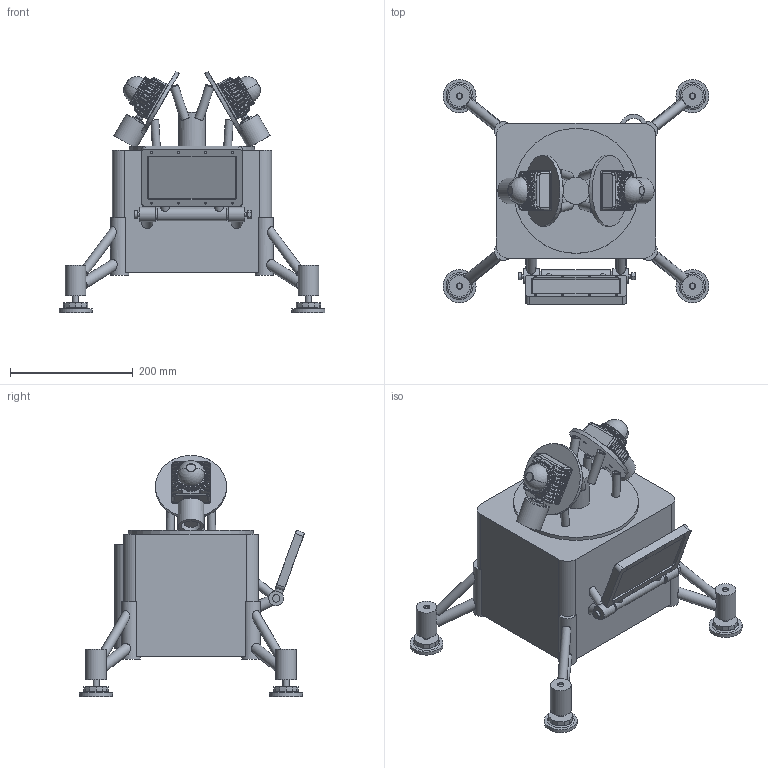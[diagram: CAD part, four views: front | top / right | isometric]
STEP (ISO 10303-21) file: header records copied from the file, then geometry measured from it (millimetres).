
FILE_DESCRIPTION(('FreeCAD Model'),'2;1');
FILE_NAME('Open CASCADE Shape Model','2026-09-04T12:24:28',('Author'),( ''),'Open CASCADE STEP processor 7.8','FreeCAD','Unknown');
FILE_SCHEMA(('AUTOMOTIVE_DESIGN { 1 0 10303 214 1 1 1 1 }'));
Length unit declared in the file: millimetre
Products named in the file (20): TRUSS_Dual_MID360_Scanner; ONE-PIECE rounded shell + tubular spider + sensor head; Rounded 5.5-inch screen carrier — real M6 friction hinge; M12x1.75 threaded leveling foot 1; M12x1.75 threaded leveling foot 2; M12x1.75 threaded leveling foot 3; M12x1.75 threaded leveling foot 4; Livox MID-360 left — official full STEP, dome outward; Livox MID-360 right — official full STEP, dome outward; MID360 M12 plug jacket clearance envelope left; MID360 M12 plug jacket clearance envelope right; CSBattery LFP24V10; Seeed reComputer J4012; Vicor DCM3623T36G13C2T00; Noctua NF-A6x25 5V PWM; Waveshare 5.5-inch AMOLED; M6 shoulder pin d6 x 178; M6 Belleville friction washer left; M6 Belleville friction washer right; M6 nyloc locknut
Assembly tree (19 placements, depth 2):
  TRUSS_Dual_MID360_Scanner
    ONE-PIECE rounded shell + tubular spider + sensor head
    Rounded 5.5-inch screen carrier — real M6 friction hinge
    M12x1.75 threaded leveling foot 1
    M12x1.75 threaded leveling foot 2
    M12x1.75 threaded leveling foot 3
    M12x1.75 threaded leveling foot 4
    Livox MID-360 left — official full STEP, dome outward
    Livox MID-360 right — official full STEP, dome outward
    MID360 M12 plug jacket clearance envelope left
    MID360 M12 plug jacket clearance envelope right
    CSBattery LFP24V10
    Seeed reComputer J4012
    Vicor DCM3623T36G13C2T00
    Noctua NF-A6x25 5V PWM
    Waveshare 5.5-inch AMOLED
    M6 shoulder pin d6 x 178
    M6 Belleville friction washer left
    M6 Belleville friction washer right
    M6 nyloc locknut
Bounding box: 434 x 367.25 x 393.23 mm (x, y, z)
Volume: 5739116.1 mm3; surface area: 1150770.5 mm2
Topology: 31 solids, 63 shells, 3831 faces, 10344 edges, 6706 vertices
Faces by surface type: cylinder 1307, plane 1156, bspline 636, cone 398, torus 274, extrusion 48, sphere 12
Full cylindrical faces by diameter (mm): 2.9 x8, 3.4 x8, 6 x1, 6.2 x1, 6.4 x5, 6.5 x8, 7.4 x4, 8 x4, 9 x4, 9.8 x4, 10.2 x4, 11 x4, 12 x1, 13 x4, 14 x8, 15 x4, 18 x8, 21 x3, 24 x2, 30 x4, 32 x2, 34 x4, 42 x2, 44 x1, 54 x4, 204 x1
Entity records: 199412 total; most frequent: CARTESIAN_POINT 107989, ORIENTED_EDGE 20370, DIRECTION 17244, EDGE_CURVE 10262, VERTEX_POINT 6706, AXIS2_PLACEMENT_3D 6671, FACE_BOUND 4164, EDGE_LOOP 4164
